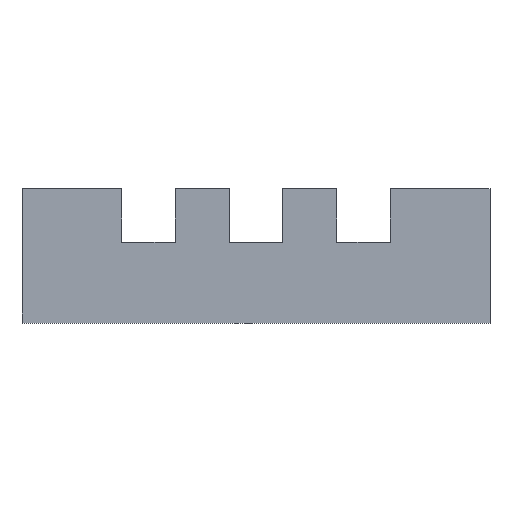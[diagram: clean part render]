
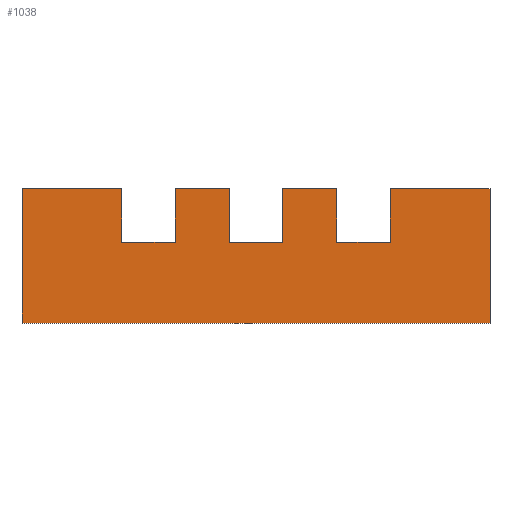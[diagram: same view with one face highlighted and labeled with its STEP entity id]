
A CAD part, top view. The second image highlights one B-rep face of the part: STEP entity #1038.
In plain terms, the highlighted planar face has unit normal (0, 0, 1).
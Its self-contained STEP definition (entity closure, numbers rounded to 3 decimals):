
#8 = VECTOR ( 'NONE', #2756, 1000. ) ;
#39 = LINE ( 'NONE', #1614, #506 ) ;
#95 = DIRECTION ( 'NONE',  ( 0., -1., 0. ) ) ;
#112 = CARTESIAN_POINT ( 'NONE',  ( 35., 25., 22. ) ) ;
#137 = ORIENTED_EDGE ( 'NONE', *, *, #2125, .T. ) ;
#150 = CARTESIAN_POINT ( 'NONE',  ( 50., 0., 22. ) ) ;
#199 = CARTESIAN_POINT ( 'NONE',  ( -30., 25., 22. ) ) ;
#251 = VERTEX_POINT ( 'NONE', #2273 ) ;
#254 = EDGE_CURVE ( 'NONE', #3048, #2412, #3333, .T. ) ;
#256 = CARTESIAN_POINT ( 'NONE',  ( 53.5, 25., 22. ) ) ;
#330 = ORIENTED_EDGE ( 'NONE', *, *, #1205, .T. ) ;
#347 = LINE ( 'NONE', #2435, #1465 ) ;
#417 = CARTESIAN_POINT ( 'NONE',  ( 35., 0., 22. ) ) ;
#435 = DIRECTION ( 'NONE',  ( 0., 1., 0. ) ) ;
#443 = LINE ( 'NONE', #2178, #1250 ) ;
#446 = VECTOR ( 'NONE', #771, 1000. ) ;
#447 = DIRECTION ( 'NONE',  ( 0., 1., 0. ) ) ;
#453 = DIRECTION ( 'NONE',  ( -1., 0., 0. ) ) ;
#462 = CARTESIAN_POINT ( 'NONE',  ( -15., 15., 22. ) ) ;
#504 = LINE ( 'NONE', #199, #1043 ) ;
#506 = VECTOR ( 'NONE', #2708, 1000. ) ;
#510 = LINE ( 'NONE', #1283, #3183 ) ;
#577 = VERTEX_POINT ( 'NONE', #2849 ) ;
#606 = VECTOR ( 'NONE', #435, 1000. ) ;
#632 = ORIENTED_EDGE ( 'NONE', *, *, #853, .F. ) ;
#633 = ORIENTED_EDGE ( 'NONE', *, *, #3115, .F. ) ;
#634 = LINE ( 'NONE', #1668, #2365 ) ;
#649 = ORIENTED_EDGE ( 'NONE', *, *, #2046, .F. ) ;
#654 = CARTESIAN_POINT ( 'NONE',  ( -33.5, 0., 22. ) ) ;
#749 = VERTEX_POINT ( 'NONE', #2512 ) ;
#751 = CARTESIAN_POINT ( 'NONE',  ( 53.5, 0., 22. ) ) ;
#771 = DIRECTION ( 'NONE',  ( 0., -1., 0. ) ) ;
#853 = EDGE_CURVE ( 'NONE', #577, #251, #443, .T. ) ;
#872 = EDGE_CURVE ( 'NONE', #1426, #1300, #3245, .T. ) ;
#873 = CARTESIAN_POINT ( 'NONE',  ( -5., 15., 22. ) ) ;
#915 = DIRECTION ( 'NONE',  ( 1., 0., 0. ) ) ;
#946 = LINE ( 'NONE', #417, #8 ) ;
#966 = DIRECTION ( 'NONE',  ( 0., -1., 0. ) ) ;
#967 = CARTESIAN_POINT ( 'NONE',  ( 15., 0., 22. ) ) ;
#1011 = LINE ( 'NONE', #1797, #2526 ) ;
#1038 = ADVANCED_FACE ( 'NONE', ( #2659 ), #2359, .F. ) ;
#1043 = VECTOR ( 'NONE', #453, 1000. ) ;
#1080 = CARTESIAN_POINT ( 'NONE',  ( 5., 15., 22. ) ) ;
#1162 = CARTESIAN_POINT ( 'NONE',  ( -33.5, 0., 22. ) ) ;
#1205 = EDGE_CURVE ( 'NONE', #2409, #1519, #946, .T. ) ;
#1250 = VECTOR ( 'NONE', #2440, 1000. ) ;
#1259 = VECTOR ( 'NONE', #2741, 1000. ) ;
#1268 = VERTEX_POINT ( 'NONE', #1437 ) ;
#1283 = CARTESIAN_POINT ( 'NONE',  ( -15., 0., 22. ) ) ;
#1289 = LINE ( 'NONE', #3126, #446 ) ;
#1300 = VERTEX_POINT ( 'NONE', #2595 ) ;
#1343 = EDGE_CURVE ( 'NONE', #1676, #1980, #510, .T. ) ;
#1377 = VERTEX_POINT ( 'NONE', #751 ) ;
#1415 = LINE ( 'NONE', #3033, #606 ) ;
#1426 = VERTEX_POINT ( 'NONE', #1080 ) ;
#1437 = CARTESIAN_POINT ( 'NONE',  ( -33.5, 25., 22. ) ) ;
#1449 = LINE ( 'NONE', #150, #1807 ) ;
#1465 = VECTOR ( 'NONE', #95, 1000. ) ;
#1516 = LINE ( 'NONE', #967, #1916 ) ;
#1519 = VERTEX_POINT ( 'NONE', #2975 ) ;
#1574 = AXIS2_PLACEMENT_3D ( 'NONE', #2097, #2909, #2407 ) ;
#1594 = EDGE_CURVE ( 'NONE', #2066, #1377, #347, .T. ) ;
#1614 = CARTESIAN_POINT ( 'NONE',  ( 50., 25., 22. ) ) ;
#1634 = EDGE_CURVE ( 'NONE', #2722, #3048, #504, .T. ) ;
#1668 = CARTESIAN_POINT ( 'NONE',  ( 20., 15., 22. ) ) ;
#1673 = EDGE_LOOP ( 'NONE', ( #1755, #1996, #2923, #3052, #1825, #2495, #2896, #3271, #137, #2919, #1945, #330, #1937, #649, #632, #633 ) ) ;
#1676 = VERTEX_POINT ( 'NONE', #2050 ) ;
#1755 = ORIENTED_EDGE ( 'NONE', *, *, #872, .F. ) ;
#1797 = CARTESIAN_POINT ( 'NONE',  ( 0., 15., 22. ) ) ;
#1807 = VECTOR ( 'NONE', #3276, 1000. ) ;
#1825 = ORIENTED_EDGE ( 'NONE', *, *, #3018, .T. ) ;
#1865 = LINE ( 'NONE', #2920, #2082 ) ;
#1889 = DIRECTION ( 'NONE',  ( -1., 0., 0. ) ) ;
#1907 = EDGE_CURVE ( 'NONE', #3275, #1268, #3299, .T. ) ;
#1916 = VECTOR ( 'NONE', #447, 1000. ) ;
#1937 = ORIENTED_EDGE ( 'NONE', *, *, #2762, .F. ) ;
#1939 = CARTESIAN_POINT ( 'NONE',  ( -5., 25., 22. ) ) ;
#1945 = ORIENTED_EDGE ( 'NONE', *, *, #2829, .F. ) ;
#1980 = VERTEX_POINT ( 'NONE', #462 ) ;
#1996 = ORIENTED_EDGE ( 'NONE', *, *, #2121, .T. ) ;
#2046 = EDGE_CURVE ( 'NONE', #251, #749, #1289, .T. ) ;
#2050 = CARTESIAN_POINT ( 'NONE',  ( -15., 25., 22. ) ) ;
#2066 = VERTEX_POINT ( 'NONE', #256 ) ;
#2067 = VECTOR ( 'NONE', #966, 1000. ) ;
#2082 = VECTOR ( 'NONE', #1889, 1000. ) ;
#2097 = CARTESIAN_POINT ( 'NONE',  ( 50., 25., 22. ) ) ;
#2121 = EDGE_CURVE ( 'NONE', #1426, #2722, #1415, .T. ) ;
#2125 = EDGE_CURVE ( 'NONE', #3275, #1377, #1449, .T. ) ;
#2178 = CARTESIAN_POINT ( 'NONE',  ( 50., 25., 22. ) ) ;
#2273 = CARTESIAN_POINT ( 'NONE',  ( 25., 25., 22. ) ) ;
#2296 = CARTESIAN_POINT ( 'NONE',  ( 5., 25., 22. ) ) ;
#2359 = PLANE ( 'NONE',  #1574 ) ;
#2365 = VECTOR ( 'NONE', #2725, 1000. ) ;
#2407 = DIRECTION ( 'NONE',  ( -1., 0., 0. ) ) ;
#2409 = VERTEX_POINT ( 'NONE', #112 ) ;
#2412 = VERTEX_POINT ( 'NONE', #873 ) ;
#2435 = CARTESIAN_POINT ( 'NONE',  ( 53.5, 25., 22. ) ) ;
#2440 = DIRECTION ( 'NONE',  ( 1., 0., 0. ) ) ;
#2455 = VECTOR ( 'NONE', #915, 1000. ) ;
#2489 = EDGE_CURVE ( 'NONE', #1676, #1268, #1865, .T. ) ;
#2495 = ORIENTED_EDGE ( 'NONE', *, *, #1343, .F. ) ;
#2512 = CARTESIAN_POINT ( 'NONE',  ( 25., 15., 22. ) ) ;
#2526 = VECTOR ( 'NONE', #2853, 1000. ) ;
#2595 = CARTESIAN_POINT ( 'NONE',  ( 15., 15., 22. ) ) ;
#2659 = FACE_OUTER_BOUND ( 'NONE', #1673, .T. ) ;
#2708 = DIRECTION ( 'NONE',  ( 1., 0., 0. ) ) ;
#2722 = VERTEX_POINT ( 'NONE', #2296 ) ;
#2725 = DIRECTION ( 'NONE',  ( -1., 0., 0. ) ) ;
#2741 = DIRECTION ( 'NONE',  ( 0., 1., 0. ) ) ;
#2756 = DIRECTION ( 'NONE',  ( 0., -1., 0. ) ) ;
#2762 = EDGE_CURVE ( 'NONE', #749, #1519, #1011, .T. ) ;
#2829 = EDGE_CURVE ( 'NONE', #2409, #2066, #39, .T. ) ;
#2849 = CARTESIAN_POINT ( 'NONE',  ( 15., 25., 22. ) ) ;
#2853 = DIRECTION ( 'NONE',  ( 1., 0., 0. ) ) ;
#2896 = ORIENTED_EDGE ( 'NONE', *, *, #2489, .T. ) ;
#2909 = DIRECTION ( 'NONE',  ( 0., 0., -1. ) ) ;
#2919 = ORIENTED_EDGE ( 'NONE', *, *, #1594, .F. ) ;
#2920 = CARTESIAN_POINT ( 'NONE',  ( -30., 25., 22. ) ) ;
#2923 = ORIENTED_EDGE ( 'NONE', *, *, #1634, .T. ) ;
#2975 = CARTESIAN_POINT ( 'NONE',  ( 35., 15., 22. ) ) ;
#3018 = EDGE_CURVE ( 'NONE', #2412, #1980, #634, .T. ) ;
#3033 = CARTESIAN_POINT ( 'NONE',  ( 5., 0., 22. ) ) ;
#3048 = VERTEX_POINT ( 'NONE', #1939 ) ;
#3052 = ORIENTED_EDGE ( 'NONE', *, *, #254, .T. ) ;
#3091 = DIRECTION ( 'NONE',  ( 0., -1., 0. ) ) ;
#3115 = EDGE_CURVE ( 'NONE', #1300, #577, #1516, .T. ) ;
#3126 = CARTESIAN_POINT ( 'NONE',  ( 25., 0., 22. ) ) ;
#3183 = VECTOR ( 'NONE', #3091, 1000. ) ;
#3245 = LINE ( 'NONE', #3282, #2455 ) ;
#3271 = ORIENTED_EDGE ( 'NONE', *, *, #1907, .F. ) ;
#3275 = VERTEX_POINT ( 'NONE', #654 ) ;
#3276 = DIRECTION ( 'NONE',  ( 1., 0., 0. ) ) ;
#3282 = CARTESIAN_POINT ( 'NONE',  ( 0., 15., 22. ) ) ;
#3284 = CARTESIAN_POINT ( 'NONE',  ( -5., 0., 22. ) ) ;
#3299 = LINE ( 'NONE', #1162, #1259 ) ;
#3333 = LINE ( 'NONE', #3284, #2067 ) ;
